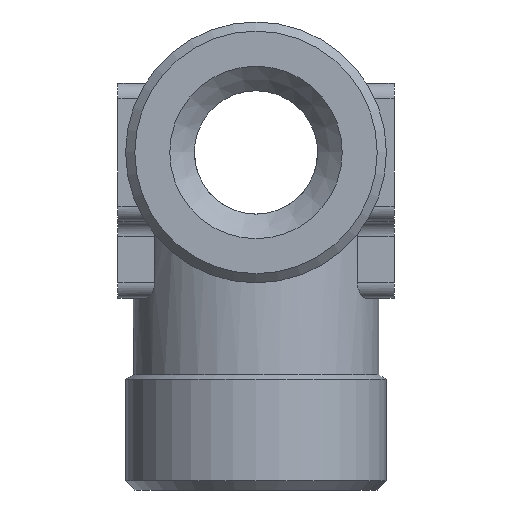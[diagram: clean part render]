
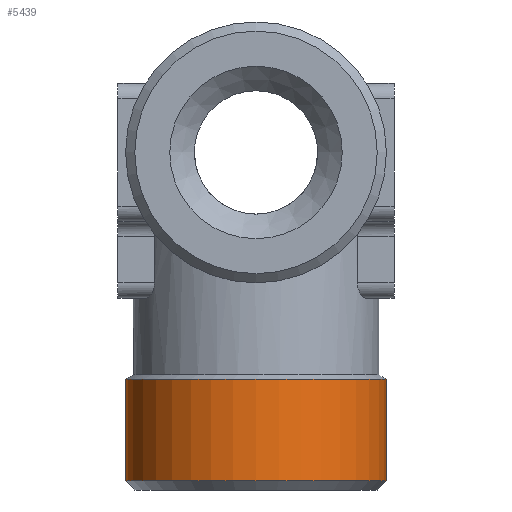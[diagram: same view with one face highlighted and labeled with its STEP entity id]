
A CAD part, left-side view. The second image highlights one B-rep face of the part: STEP entity #5439.
In plain terms, the highlighted cylindrical face has radius 4.25 mm (diameter 8.5 mm), a full revolution.
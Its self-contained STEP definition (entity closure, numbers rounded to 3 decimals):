
#1386=CYLINDRICAL_SURFACE('',#5322,4.25);
#1422=ORIENTED_EDGE('',*,*,#1792,.F.);
#1423=ORIENTED_EDGE('',*,*,#1793,.T.);
#1664=CIRCLE('',#5321,4.25);
#1665=CIRCLE('',#5323,4.25);
#1704=VERTEX_POINT('',#2322);
#1705=VERTEX_POINT('',#2325);
#1792=EDGE_CURVE('',#1704,#1704,#1664,.T.);
#1793=EDGE_CURVE('',#1705,#1705,#1665,.T.);
#1916=EDGE_LOOP('',(#1422));
#1917=EDGE_LOOP('',(#1423));
#1990=FACE_BOUND('',#1916,.T.);
#1991=FACE_BOUND('',#1917,.T.);
#2068=DIRECTION('',(0.,-1.,0.));
#2069=DIRECTION('',(0.,0.,4.25));
#2070=DIRECTION('',(0.,1.,0.));
#2071=DIRECTION('',(1.,0.,0.));
#2072=DIRECTION('',(0.,-1.,0.));
#2073=DIRECTION('',(0.,0.,4.25));
#2322=CARTESIAN_POINT('',(24.487,9.385,4.25));
#2323=CARTESIAN_POINT('',(24.487,9.385,0.));
#2324=CARTESIAN_POINT('',(24.487,9.385,0.));
#2325=CARTESIAN_POINT('',(24.487,12.69,4.25));
#2326=CARTESIAN_POINT('',(24.487,12.69,0.));
#5321=AXIS2_PLACEMENT_3D('',#2323,#2068,#2069);
#5322=AXIS2_PLACEMENT_3D('',#2324,#2070,#2071);
#5323=AXIS2_PLACEMENT_3D('',#2326,#2072,#2073);
#5439=ADVANCED_FACE('',(#1990,#1991),#1386,.T.);
